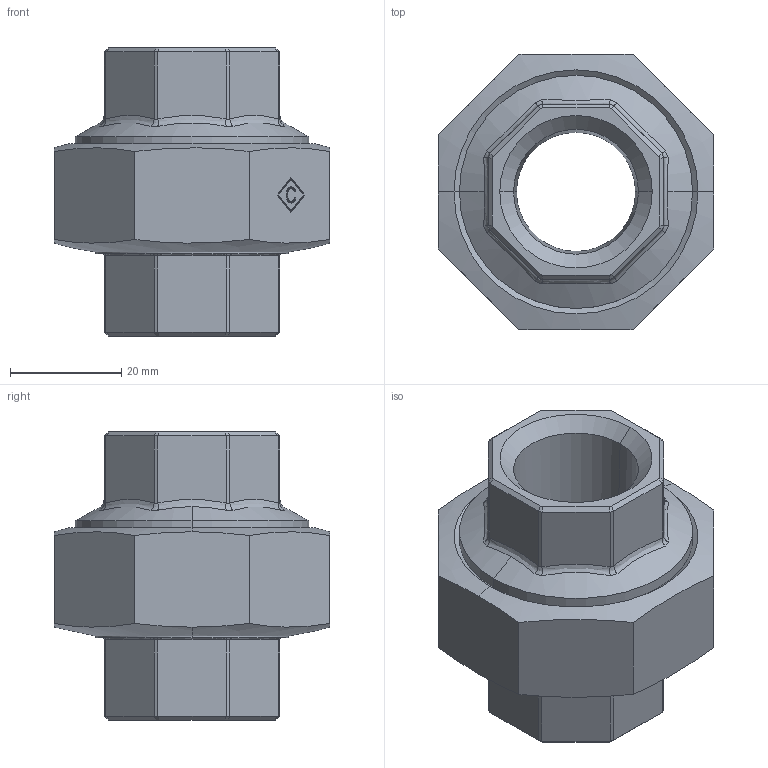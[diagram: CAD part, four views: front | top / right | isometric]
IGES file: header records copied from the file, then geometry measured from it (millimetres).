
Global section: file name: No Iges File Name specified; native system: AutoDesk Inventor R12.0; preprocessor: AutoDesk Inventor Iges Exporter R12.0; date: 20090917.165311; units: millimetre
Bounding box: 49.53 x 49.53 x 51.79 mm (x, y, z)
Volume: 41986.9 mm3; surface area: 17126.2 mm2
Topology: 1 solids, 1 shells, 169 faces, 408 edges, 250 vertices
Faces by surface type: plane 61, bspline 38, revolution 30, cylinder 22, cone 18
